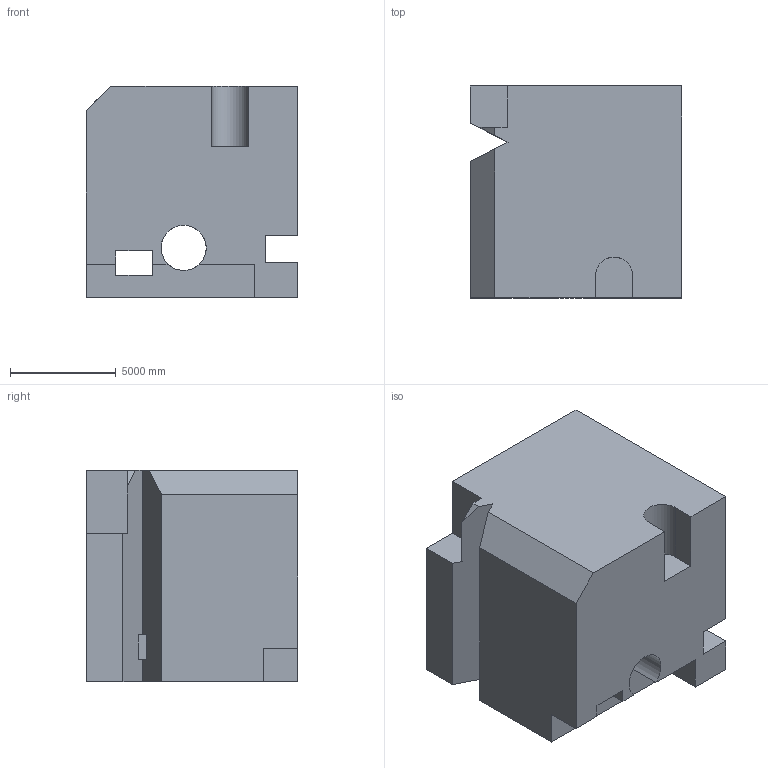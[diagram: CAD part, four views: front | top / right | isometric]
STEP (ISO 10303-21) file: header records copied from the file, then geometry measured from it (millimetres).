
FILE_DESCRIPTION (( 'STEP AP203' ), '1' );
FILE_NAME ('1993.STEP', '2022-08-23T10:22:30', ( 'user' ), ( '' ), 'SwSTEP 2.0', 'SolidWorks 2021', '' );
FILE_SCHEMA (( 'CONFIG_CONTROL_DESIGN' ));
Length unit declared in the file: centimetre
Products named in the file (1): 1993
Bounding box: 10000 x 10000 x 10000 mm (x, y, z)
Volume: 861036157163.1 mm3; surface area: 753983034.6 mm2
Topology: 1 solids, 1 shells, 46 faces, 147 edges, 98 vertices
Faces by surface type: plane 43, cylinder 3
Entity records: 1688 total; most frequent: ORIENTED_EDGE 294, CARTESIAN_POINT 292, DIRECTION 249, EDGE_CURVE 147, LINE 139, VECTOR 139, VERTEX_POINT 98, AXIS2_PLACEMENT_3D 55
